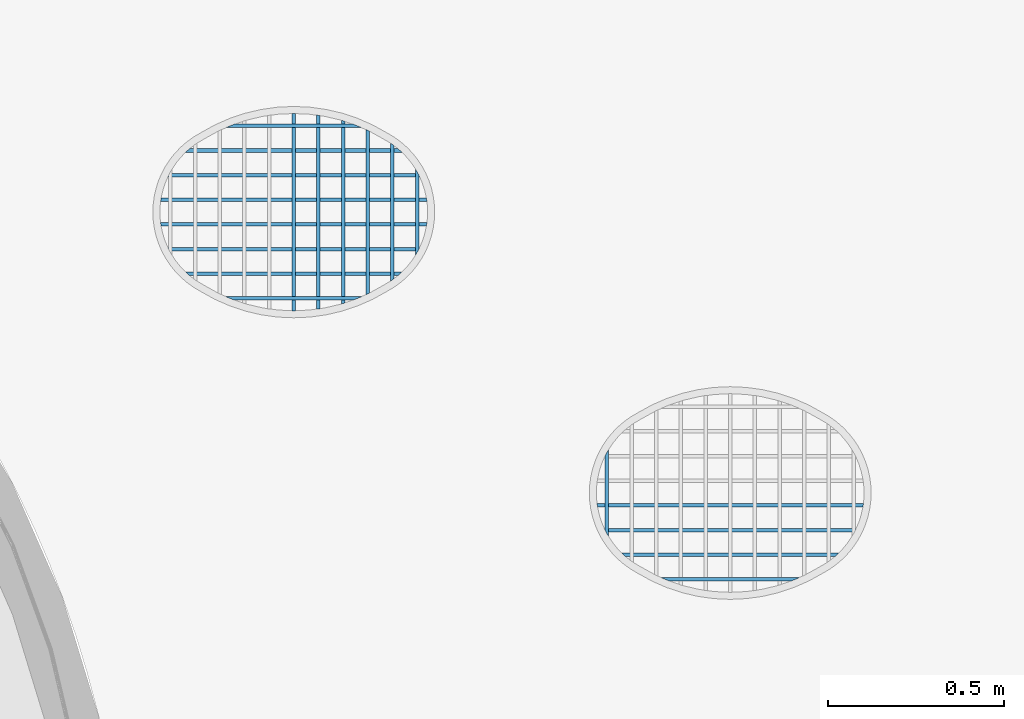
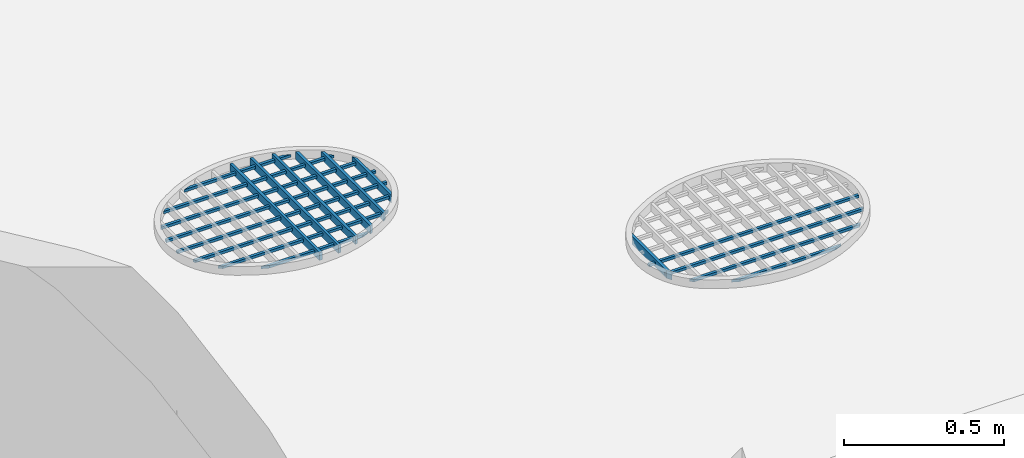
# One storey, part 43 of 133: 19 members, 2 elements without a shape of their own.
"""IFC2X3 building model written with IfcOpenShell, lengths in centimetres."""

from ifc_helpers import new_model, entity, si_unit, converted_unit, direction, frame, origin, origin_with_axes, place, context, subcontext, project, spatial, faceted_brep, material, type_object, element, aggregate, save


model = new_model("IFC2X3")

# Units and contexts
model_context = context("Model", 3, precision=0.0001, world=origin(), true_north=direction((0.225632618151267, 0.974212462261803, 0.0)))
body_context = subcontext(model_context, "Body", "Model", "MODEL_VIEW")
ifc_project = project(units=[si_unit("LENGTHUNIT", "METRE", prefix="CENTI"), si_unit("AREAUNIT", "SQUARE_METRE", prefix="CENTI"), si_unit("VOLUMEUNIT", "CUBIC_METRE", prefix="CENTI"), converted_unit("PLANEANGLEUNIT", "DEGREE", entity("IfcRatioMeasure", 0.0174532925), si_unit("PLANEANGLEUNIT", "RADIAN"), dimensions=[0, 0, 0, 0, 0, 0, 0])], contexts=[model_context])

# Site, building, storey
site_placement = place(None, origin_with_axes())
site = spatial("IfcSite", under=ifc_project, at=site_placement, Name="Default Site", CompositionType="ELEMENT")
building_placement = place(site_placement, origin_with_axes())
building = spatial("IfcBuilding", under=site, at=building_placement, Name="Default Building", CompositionType="ELEMENT")
storey_placement = place(building_placement, frame((0.0, 0.0, -291.400371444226), z_axis=(0.0, 0.0, 1.0), x_axis=(1.0, 0.0, 0.0)))
storey = spatial("IfcBuildingStorey", under=building, at=storey_placement, Name="Rez-de-Jardin", CompositionType="ELEMENT", Elevation=-291.400371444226)

# Assembly, members
building_element_proxy_type = type_object("IfcBuildingElementProxyType", Name="Type Object", PredefinedType="NOTDEFINED")
assembly_1_placement = place(storey_placement, frame((1793.16993622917, -1212.9155813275, 107.795800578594), z_axis=(0.0, -1.0, -9.43689570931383e-16), x_axis=(1.0, 0.0, 0.0)))
assembly_1 = element("IfcElementAssembly", 1, at=assembly_1_placement, inside=storey, type_object=building_element_proxy_type, Name="Panneau 294968", ObjectType="Precast panel", PredefinedType="USERDEFINED")
ifc_material = material(Name="Acier")
member_1_placement = place(assembly_1_placement, frame((59.7005188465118, 0.499999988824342, 54.1905760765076), z_axis=(0.383762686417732, -5.61192313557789e-22, 0.923431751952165), x_axis=(0.923431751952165, -3.62152844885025e-16, -0.383762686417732)))
member_1 = element("IfcMember", 2, at=member_1_placement, material=ifc_material, Name="4294966963", context=body_context, shape_type="Brep", body=[
    faceted_brep([(0.0, -3.17454396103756e-14, 2.22044604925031e-14), (-2.6057900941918, -3.26995375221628e-14, -4.03793421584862e-06), (-2.6057900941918, -0.999999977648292, -4.03793421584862e-06), (0.0, -0.999999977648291, 2.22044604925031e-14), (-36.3841667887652, -0.999999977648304, -15.1206470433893), (-34.5459040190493, -0.999999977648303, -13.2737781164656), (-34.5459040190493, -4.42354474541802e-14, -13.2737781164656), (-36.3841667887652, -4.49293380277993e-14, -15.1206470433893), (-2.60579009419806, -0.999999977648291, 2.22044604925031e-14), (-34.5459072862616, -0.999999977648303, -13.273774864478), (-2.60579009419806, -3.26995375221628e-14, 2.23646503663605e-14), (-34.5459072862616, -4.42354486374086e-14, -13.273774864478), (-2.60579009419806, -3.26995375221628e-14, 2.22044604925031e-14), (3.76769913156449e-33, -3.17558432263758e-14, 2.22044604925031e-14), (-36.3841667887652, -4.49324812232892e-14, -15.1206470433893), (-34.5459072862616, -4.42667492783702e-14, -13.273774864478), (5.33354253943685e-17, -0.999999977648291, 2.20761217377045e-14)], [[[0, 1, 2, 3]], [[4, 5, 6, 7]], [[3, 8, 9, 4]], [[8, 10, 11, 9]], [[12, 13, 14, 15]], [[0, 16, 4, 7]]]),
])
member_2_placement = place(assembly_1_placement, frame((70.8504140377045, 0.499999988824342, 47.1905797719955), z_axis=(0.675979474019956, 3.21339215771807e-22, 0.736920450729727), x_axis=(0.736920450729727, -6.37914779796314e-16, -0.675979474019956)))
member_2 = element("IfcMember", 3, at=member_2_placement, material=ifc_material, Name="4294966962", context=body_context, shape_type="Brep", body=[
    faceted_brep([(-1.11022302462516e-14, 1.29236898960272e-14, -1.33226762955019e-13), (-1.47933344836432, 1.20563281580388e-14, 7.45190079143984e-07), (-1.47933344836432, -0.999999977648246, 7.45190079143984e-07), (-1.11022302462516e-14, -0.999999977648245, -1.33226762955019e-13), (-45.4686000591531, -0.999999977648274, -41.7084914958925), (-45.3412250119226, -0.999999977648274, -40.2346519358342), (-45.3412250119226, -1.59594564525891e-14, -40.2346519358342), (-45.4686000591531, -1.60461921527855e-14, -41.7084914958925), (-1.47933344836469, -0.999999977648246, -1.33226762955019e-13), (-45.3412242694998, -0.999999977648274, -40.2346519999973), (-1.47933344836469, 1.20563281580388e-14, -1.32971092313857e-13), (-45.3412242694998, -1.59594559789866e-14, -40.2346519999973), (-1.47933344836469, 1.20563281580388e-14, -1.33226762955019e-13), (-1.11022302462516e-14, 1.30000168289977e-14, -1.33226762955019e-13), (-45.4686000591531, -1.60050617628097e-14, -41.7084914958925), (-45.3412242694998, -1.5923807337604e-14, -40.2346519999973), (-1.08107360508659e-14, -0.999999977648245, -1.33544535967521e-13)], [[[0, 1, 2, 3]], [[4, 5, 6, 7]], [[3, 8, 9, 4]], [[8, 10, 11, 9]], [[12, 13, 14, 15]], [[0, 16, 4, 7]]]),
])
member_3_placement = place(assembly_1_placement, frame((75.7990658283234, 0.499999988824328, 40.190577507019), z_axis=(0.896938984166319, 2.15687656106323e-21, 0.442154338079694), x_axis=(0.442154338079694, -8.46431965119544e-16, -0.896938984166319)))
member_3 = element("IfcMember", 4, at=member_3_placement, material=ifc_material, Name="4294966961", context=body_context, shape_type="Brep", body=[
    faceted_brep([(3.16066617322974e-13, 2.00360561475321e-14, -1.99840144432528e-13), (-1.11490529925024, 1.90819582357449e-14, 2.84099967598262e-06), (-1.11490529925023, -0.999999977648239, 2.84099967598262e-06), (3.1676050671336e-13, -0.999999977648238, -1.99840146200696e-13), (-31.657423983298, -0.999999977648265, -64.2191544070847), (-32.3364014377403, -0.999999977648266, -63.3348471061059), (-32.3364014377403, -7.28583803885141e-15, -63.3348471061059), (-31.657423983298, -6.76542155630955e-15, -64.2191544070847), (3.16760506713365e-13, -0.999999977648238, -1.99840144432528e-13), (-1.11490529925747, -0.999999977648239, -1.99840144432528e-13), (-32.3364020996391, -0.999999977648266, -63.3348476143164), (-1.11490529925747, 1.90819582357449e-14, -2.0007024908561e-13), (-32.3364020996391, -7.28583859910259e-15, -63.3348476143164), (-1.11490529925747, 1.90819582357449e-14, -1.99840144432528e-13), (3.16066617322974e-13, 2.00256497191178e-14, -1.99840144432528e-13), (-31.657423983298, -6.77006736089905e-15, -64.2191544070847), (-32.3364020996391, -7.34477804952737e-15, -63.3348476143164), (3.16883227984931e-13, -0.999999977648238, -1.99900641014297e-13)], [[[0, 1, 2, 3]], [[4, 5, 6, 7]], [[8, 9, 10, 4]], [[9, 11, 12, 10]], [[13, 14, 15, 16]], [[0, 17, 4, 7]]]),
])
member_4_placement = place(assembly_1_placement, frame((77.815169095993, 0.499999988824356, 33.1905782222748), z_axis=(0.989079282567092, 3.98866626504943e-22, 0.147384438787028), x_axis=(0.147384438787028, -9.33383803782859e-16, -0.989079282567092)))
member_4 = element("IfcMember", 5, at=member_4_placement, material=ifc_material, Name="4294966960", context=body_context, shape_type="Brep", body=[
    faceted_brep([(9.99200722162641e-14, 2.25514051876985e-15, -2.55351295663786e-13), (-1.0110403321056, 1.30104260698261e-15, 4.32051645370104e-07), (-1.0110403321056, -0.999999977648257, 4.32051645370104e-07), (9.99200722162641e-14, -0.999999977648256, -2.55351295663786e-13), (-11.146734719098, -0.999999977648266, -74.8043990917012), (-12.1138511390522, -0.999999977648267, -74.5096309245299), (-12.1138511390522, -9.02056209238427e-15, -74.5096309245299), (-11.146734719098, -8.15320033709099e-15, -74.8043990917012), (-1.01104033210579, -0.999999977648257, -2.55351295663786e-13), (-12.1138511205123, -0.999999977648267, -74.5096308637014), (-1.01104033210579, 1.3010426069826e-15, -2.55223460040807e-13), (-12.1138511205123, -9.0205620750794e-15, -74.5096308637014), (-1.01104033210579, 1.30104260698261e-15, -2.55351295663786e-13), (9.99200722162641e-14, 2.24473127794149e-15, -2.55351295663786e-13), (-11.146734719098, -8.15942053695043e-15, -74.8043990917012), (-12.1138511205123, -9.06211143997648e-15, -74.5096308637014), (1.00833180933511e-13, -0.999999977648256, -2.55487359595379e-13)], [[[0, 1, 2, 3]], [[4, 5, 6, 7]], [[3, 8, 9, 4]], [[8, 10, 11, 9]], [[12, 13, 14, 15]], [[0, 16, 4, 7]]]),
])
member_5_placement = place(assembly_1_placement, frame((5.49999997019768, 1.49999996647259, 42.6420271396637), z_axis=(-0.873670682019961, 2.55503137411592e-22, 0.486517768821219), x_axis=(0.486517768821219, 8.24473911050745e-16, 0.873670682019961)))
member_5 = element("IfcMember", 6, at=member_5_placement, material=ifc_material, Name="4294966955", context=body_context, shape_type="Brep", body=[
    faceted_brep([(9.99200722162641e-14, 1.17961196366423e-14, -1.49880108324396e-13), (-2.05542295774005, 1.35308431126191e-14, -6.36972414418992e-07), (-2.05542295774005, -2.99999993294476, -6.36972414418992e-07), (9.99200722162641e-14, -2.99999993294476, -1.49880108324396e-13), (-21.756931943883, -2.99999993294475, -12.1157024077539), (-20.6745430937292, -2.99999993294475, -10.3683606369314), (-20.6745430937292, 2.87964097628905e-14, -10.3683606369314), (-21.756931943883, 2.98372437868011e-14, -12.1157024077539), (-2.05542295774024, -2.99999993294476, -1.47104550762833e-13), (-20.6745430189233, -2.99999993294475, -10.3683606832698), (-2.05542295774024, 1.35308431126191e-14, -1.48165454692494e-13), (-20.6745430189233, 2.8796409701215e-14, -10.3683606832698), (-2.05542295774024, 1.35308431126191e-14, -1.47104550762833e-13), (9.99200722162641e-14, 1.18362005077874e-14, -1.49880108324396e-13), (-21.756931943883, 2.97742263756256e-14, -12.1157024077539), (-20.6745430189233, 2.88818244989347e-14, -10.3683606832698), (9.93346147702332e-14, -2.99999993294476, -1.48828765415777e-13)], [[[0, 1, 2, 3]], [[4, 5, 6, 7]], [[3, 8, 9, 4]], [[8, 10, 11, 9]], [[12, 13, 14, 15]], [[0, 16, 4, 7]]]),
])
aggregate(assembly_1, [member_1, member_2, member_3, member_4, member_5])

assembly_2_placement = place(storey_placement, frame((1669.25525147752, -1133.36164127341, 107.795800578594), z_axis=(0.0, -1.0, -9.43689570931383e-16), x_axis=(1.0, 0.0, 0.0)))
assembly_2 = element("IfcElementAssembly", 7, at=assembly_2_placement, inside=storey, type_object=building_element_proxy_type, Name="Panneau 294969", ObjectType="Precast panel", PredefinedType="USERDEFINED")
member_6_placement = place(assembly_2_placement, frame((59.3165040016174, 0.499999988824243, 54.0000021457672), z_axis=(0.373299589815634, 5.02653422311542e-24, 0.927710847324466), x_axis=(0.927710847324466, -3.52278929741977e-16, -0.373299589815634)))
member_6 = element("IfcMember", 8, at=member_6_placement, material=ifc_material, Name="4294966943", context=body_context, shape_type="Brep", body=[
    faceted_brep([(1.4432899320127e-13, -9.97465998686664e-15, -6.99440505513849e-13), (-2.67881099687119, -1.09287578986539e-14, 3.82222368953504e-08), (-2.67881099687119, -0.999999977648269, 3.82222368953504e-08), (1.4432899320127e-13, -0.999999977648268, -6.99440505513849e-13), (-35.8402608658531, -0.999999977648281, -14.4216861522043), (-33.9080473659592, -0.99999997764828, -12.5662652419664), (-33.9080473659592, -2.19442521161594e-14, -12.5662652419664), (-35.8402608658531, -2.26381413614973e-14, -14.4216861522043), (-2.67881099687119, -0.999999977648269, -6.88338275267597e-13), (-33.9080469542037, -0.99999997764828, -12.5662656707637), (-2.67881099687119, -1.09287578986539e-14, -6.8817734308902e-13), (-33.9080469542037, -2.19442519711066e-14, -12.5662656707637), (-2.67881099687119, -1.09287578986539e-14, -6.88338275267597e-13), (1.4432899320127e-13, -9.98506922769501e-15, -6.99440505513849e-13), (-35.8402608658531, -2.26108378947e-14, -14.4216861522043), (-33.9080469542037, -2.19301596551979e-14, -12.5662656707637), (1.44378084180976e-13, -0.999999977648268, -6.99562504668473e-13)], [[[0, 1, 2, 3]], [[4, 5, 6, 7]], [[3, 8, 9, 4]], [[8, 10, 11, 9]], [[12, 13, 14, 15]], [[0, 16, 4, 7]]]),
])
member_7_placement = place(assembly_2_placement, frame((70.7254946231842, 0.499999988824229, 46.9999998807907), z_axis=(0.666088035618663, -4.8381274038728e-22, 0.745873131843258), x_axis=(0.745873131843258, -6.28580332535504e-16, -0.666088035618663)))
member_7 = element("IfcMember", 9, at=member_7_placement, material=ifc_material, Name="4294966942", context=body_context, shape_type="Brep", body=[
    faceted_brep([(1.27675647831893e-13, 1.33573707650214e-14, -1.77635683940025e-13), (-1.50130161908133, 1.2490009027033e-14, -1.1555387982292e-06), (-1.50130161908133, -0.999999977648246, -1.1555387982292e-06), (1.27675647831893e-13, -0.999999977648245, -1.77635683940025e-13), (-45.8346425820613, -0.999999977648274, -40.9317694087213), (-45.665514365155, -0.999999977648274, -39.4400224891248), (-45.665514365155, -1.53523032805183e-14, -39.4400224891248), (-45.8346425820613, -1.54390389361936e-14, -40.9317694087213), (-1.50130161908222, -0.999999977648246, -1.77635683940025e-13), (-45.6655135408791, -0.999999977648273, -39.4400225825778), (-1.50130161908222, 1.2490009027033e-14, -1.77376907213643e-13), (-45.6655135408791, -1.53523027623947e-14, -39.4400225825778), (-45.6655135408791, -0.999999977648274, -39.4400225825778), (-1.50130161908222, 1.2490009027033e-14, -1.77635683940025e-13), (1.27675647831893e-13, 1.34336976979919e-14, -1.77635683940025e-13), (-45.8346425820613, -1.53770769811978e-14, -40.9317694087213), (-45.6655135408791, -1.52707650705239e-14, -39.4400225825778), (1.27954531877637e-13, -0.999999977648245, -1.77947973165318e-13)], [[[0, 1, 2, 3]], [[4, 5, 6, 7]], [[3, 8, 9, 4]], [[8, 10, 11, 12]], [[13, 14, 15, 16]], [[0, 17, 4, 7]]]),
])
member_8_placement = place(assembly_2_placement, frame((75.769579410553, 0.499999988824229, 40.0000005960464), z_axis=(0.894271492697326, 6.38341257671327e-22, 0.447524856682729), x_axis=(0.447524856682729, -8.43914681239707e-16, -0.894271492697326)))
member_8 = element("IfcMember", 10, at=member_8_placement, material=ifc_material, Name="4294966941", context=body_context, shape_type="Brep", body=[
    faceted_brep([(1.16226472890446e-13, -1.47451495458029e-15, 6.66133814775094e-14), (-1.1182275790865, -2.42861286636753e-15, 8.4583296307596e-07), (-1.1182275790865, -0.999999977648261, 8.4583296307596e-07), (1.16920362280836e-13, -0.99999997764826, 6.6613380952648e-14), (-32.0155512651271, -0.999999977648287, -63.9754292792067), (-32.6858654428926, -0.999999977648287, -63.0803811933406), (-32.6858654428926, -2.90566183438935e-14, -63.0803811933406), (-32.0155512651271, -2.85362011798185e-14, -63.9754292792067), (1.16920362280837e-13, -0.99999997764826, 6.66133814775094e-14), (-1.11822757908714, -0.999999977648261, 6.66133814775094e-14), (-32.685865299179, -0.999999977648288, -63.0803810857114), (-1.11822757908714, -2.42861286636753e-15, 6.66133814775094e-14), (-32.685865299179, -2.90566182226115e-14, -63.0803810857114), (1.16226472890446e-13, -1.48492419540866e-15, 6.66133814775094e-14), (-32.0155512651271, -2.8503277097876e-14, -63.9754292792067), (-32.685865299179, -2.90689655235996e-14, -63.0803810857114), (1.17040340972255e-13, -0.99999997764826, 6.65533399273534e-14)], [[[0, 1, 2, 3]], [[4, 5, 6, 7]], [[8, 9, 10, 4]], [[9, 11, 12, 10]], [[11, 13, 14, 15]], [[0, 16, 4, 7]]]),
])
member_9_placement = place(assembly_2_placement, frame((77.8129041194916, 0.499999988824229, 33.0000013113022), z_axis=(0.988811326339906, -2.97719498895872e-21, 0.149171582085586), x_axis=(0.149171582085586, -9.33130936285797e-16, -0.988811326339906)))
member_9 = element("IfcMember", 11, at=member_9_placement, material=ifc_material, Name="4294966940", context=body_context, shape_type="Brep", body=[
    faceted_brep([(3.02535774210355e-13, 2.48065457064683e-14, -2.22044604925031e-14), (-1.01131431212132, 2.38524477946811e-14, -3.22664248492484e-06), (-1.01131431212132, -0.999999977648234, -3.22664248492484e-06), (3.02535774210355e-13, -0.999999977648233, -2.22044604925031e-14), (-11.2812218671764, -0.999999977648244, -74.7796584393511), (-12.2475278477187, -0.999999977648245, -74.4813123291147), (-12.2475278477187, 1.33573707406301e-14, -74.4813123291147), (-11.2812218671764, 1.42247325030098e-14, -74.7796584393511), (-1.01131431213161, -0.999999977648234, -2.22044604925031e-14), (-12.2475278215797, -0.999999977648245, -74.4813122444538), (-1.01131431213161, 2.38524477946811e-14, -2.20750747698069e-14), (-12.2475278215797, 1.33573707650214e-14, -74.4813122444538), (-1.01131431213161, 2.38524477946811e-14, -2.22044604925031e-14), (3.02535774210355e-13, 2.479613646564e-14, -2.22044604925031e-14), (-11.2812218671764, 1.42690567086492e-14, -74.7796584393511), (-12.2475278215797, 1.33673676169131e-14, -74.4813122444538), (3.03448140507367e-13, -0.999999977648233, -2.23420996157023e-14)], [[[0, 1, 2, 3]], [[4, 5, 6, 7]], [[3, 8, 9, 4]], [[8, 10, 11, 9]], [[12, 13, 14, 15]], [[0, 16, 4, 7]]]),
])
member_10_placement = place(assembly_2_placement, frame((77.6620447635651, 0.499999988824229, 25.9999990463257), z_axis=(0.988811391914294, 3.38739116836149e-21, -0.149171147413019), x_axis=(-0.149171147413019, -9.33130998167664e-16, -0.988811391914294)))
member_10 = element("IfcMember", 12, at=member_10_placement, material=ifc_material, Name="4294966939", context=body_context, shape_type="Brep", body=[
    faceted_brep([(1.66533453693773e-13, 3.17454396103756e-14, 1.11022302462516e-13), (-1.01131725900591, 3.07913416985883e-14, 3.67121793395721e-06), (-1.01131725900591, -0.999999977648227, 3.67121793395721e-06), (1.66533453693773e-13, -0.999999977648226, 1.11022302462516e-13), (11.2361807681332, -0.999999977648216, -74.4813171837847), (10.2698718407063, -0.999999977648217, -74.7796637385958), (10.2698718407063, 4.12864188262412e-14, -74.7796637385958), (11.2361807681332, 4.22405166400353e-14, -74.4813171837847), (-1.01131725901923, -0.999999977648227, 9.99200722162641e-14), (10.2698717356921, -0.999999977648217, -74.7796633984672), (-1.01131725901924, 3.07913416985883e-14, 9.97906868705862e-14), (10.2698717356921, 4.1286418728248e-14, -74.7796633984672), (-1.01131725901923, 3.07913416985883e-14, 9.99200722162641e-14), (1.66533453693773e-13, 3.17350331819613e-14, 1.11022302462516e-13), (11.2361807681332, 4.22201140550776e-14, -74.4813171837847), (10.2698717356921, 4.13184221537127e-14, -74.7796633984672), (1.67445820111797e-13, -0.999999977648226, 1.11159941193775e-13)], [[[0, 1, 2, 3]], [[4, 5, 6, 7]], [[3, 8, 9, 4]], [[8, 10, 11, 9]], [[12, 13, 14, 15]], [[0, 16, 4, 7]]]),
])
member_11_placement = place(assembly_2_placement, frame((75.2691447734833, 0.499999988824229, 18.9999997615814), z_axis=(0.894271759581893, -1.3506659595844e-22, -0.447524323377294), x_axis=(-0.447524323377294, -8.4391493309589e-16, -0.894271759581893)))
member_11 = element("IfcMember", 13, at=member_11_placement, material=ifc_material, Name="4294966938", context=body_context, shape_type="Brep", body=[
    faceted_brep([(2.66453525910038e-13, 2.38524477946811e-14, -8.88178419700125e-14), (-1.11822891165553, 2.28983498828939e-14, -1.78969990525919e-07), (-1.11822891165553, -0.999999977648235, -1.78969990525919e-07), (2.66453525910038e-13, -0.999999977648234, -8.88178419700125e-14), (31.5676001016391, -0.999999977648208, -63.0803999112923), (30.8972845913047, -0.999999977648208, -63.9754486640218), (30.8972845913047, 4.9960036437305e-14, -63.9754486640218), (31.5676001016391, 5.04804531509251e-14, -63.0803999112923), (-1.11822891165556, -0.999999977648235, -8.88178419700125e-14), (30.8972842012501, -0.999999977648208, -63.975448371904), (-1.11822891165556, 2.28983498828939e-14, -8.91283743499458e-14), (30.8972842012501, 4.9960036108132e-14, -63.975448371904), (-1.11822891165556, 2.28983498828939e-14, -8.88178419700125e-14), (2.66453525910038e-13, 2.38420399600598e-14, -8.88178419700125e-14), (31.5676001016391, 5.04824005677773e-14, -63.0803999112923), (30.8972842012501, 4.99167108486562e-14, -63.975448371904), (2.67128423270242e-13, -0.999999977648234, -8.84801001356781e-14)], [[[0, 1, 2, 3]], [[4, 5, 6, 7]], [[3, 8, 9, 4]], [[8, 10, 11, 9]], [[12, 13, 14, 15]], [[0, 16, 4, 7]]]),
])
member_12_placement = place(assembly_2_placement, frame((69.6057140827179, 0.499999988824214, 11.9999997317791), z_axis=(0.666088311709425, 7.16486992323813e-22, -0.745872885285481), x_axis=(-0.745872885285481, -6.28580593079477e-16, -0.666088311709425)))
member_12 = element("IfcMember", 14, at=member_12_placement, material=ifc_material, Name="4294966937", context=body_context, shape_type="Brep", body=[
    faceted_brep([(2.88657986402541e-13, 7.33788030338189e-14, 2.1094237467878e-13), (-1.50130211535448, 7.24247051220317e-14, 1.71125800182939e-06), (-1.50130211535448, -0.999999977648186, 1.71125800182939e-06), (2.88657986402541e-13, -0.999999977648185, 2.1094237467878e-13), (44.1641973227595, -0.999999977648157, -39.4400389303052), (44.3333250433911, -0.999999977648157, -40.9317864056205), (44.3333250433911, 1.01221114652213e-13, -40.9317864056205), (44.1641973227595, 1.01134378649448e-13, -39.4400389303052), (-1.50130211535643, -0.999999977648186, 2.1094237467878e-13), (44.3333253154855, -0.999999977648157, -40.9317863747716), (-1.50130211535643, 7.24247051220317e-14, 2.1068359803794e-13), (44.3333253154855, 1.01221114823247e-13, -40.9317863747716), (-1.50130211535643, 7.24247051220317e-14, 2.1094237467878e-13), (2.88657986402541e-13, 7.33683944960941e-14, 2.1094237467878e-13), (44.1641973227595, 1.01129180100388e-13, -39.4400389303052), (44.3333253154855, 1.0123549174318e-13, -40.9317863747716), (2.88936870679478e-13, -0.999999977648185, 2.11254663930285e-13)], [[[0, 1, 2, 3]], [[4, 5, 6, 7]], [[3, 8, 9, 4]], [[8, 10, 11, 9]], [[12, 13, 14, 15]], [[0, 16, 4, 7]]]),
])
member_13_placement = place(assembly_2_placement, frame((56.8313419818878, 0.499999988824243, 5.00000007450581), z_axis=(0.373299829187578, 8.58700502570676e-23, -0.927710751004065), x_axis=(-0.927710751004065, -3.52279155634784e-16, -0.373299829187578)))
member_13 = element("IfcMember", 15, at=member_13_placement, material=ifc_material, Name="4294966936", context=body_context, shape_type="Brep", body=[
    faceted_brep([(-1.11022302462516e-14, 3.03576608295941e-15, 9.43689570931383e-14), (-2.67881127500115, 2.08166817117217e-15, 6.52975597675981e-07), (-2.67881127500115, -0.999999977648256, 6.52975597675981e-07), (-1.11022302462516e-14, -0.999999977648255, 9.43689570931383e-14), (31.2292327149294, -0.999999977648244, -12.5662737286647), (33.1614459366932, -0.999999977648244, -14.4216953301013), (33.1614459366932, 1.47451495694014e-14, -14.4216953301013), (31.2292327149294, 1.40512601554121e-14, -12.5662737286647), (-2.67881127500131, -0.999999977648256, 9.71445146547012e-14), (33.1614458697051, -0.999999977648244, -14.4216953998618), (31.2292327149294, -0.999999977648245, -12.5662737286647), (-2.67881127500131, 2.08166817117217e-15, 9.69835824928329e-14), (33.1614458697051, 1.47451495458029e-14, -14.4216953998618), (-2.67881127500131, 2.08166817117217e-15, 9.71445146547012e-14), (-1.11022302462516e-14, 3.02535754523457e-15, 9.43689570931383e-14), (31.2292327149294, 1.40267663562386e-14, -12.5662737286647), (33.1614458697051, 1.47074449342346e-14, -14.4216953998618), (-1.1053139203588e-14, -0.999999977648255, 9.44909563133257e-14)], [[[0, 1, 2, 3]], [[4, 5, 6, 7]], [[3, 8, 9, 10]], [[8, 11, 12, 9]], [[13, 14, 15, 16]], [[0, 17, 4, 7]]]),
])
member_14_placement = place(assembly_2_placement, frame((40.5000001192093, 1.4999999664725, 57.9999983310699), z_axis=(0.0, 0.0, 1.0), x_axis=(1.0, 0.0, 0.0)))
member_14 = element("IfcMember", 16, at=member_14_placement, material=ifc_material, Name="4294966930", context=body_context, shape_type="Brep", body=[
    faceted_brep([(0.0, -2.22044604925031e-14, -1.77635683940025e-13), (-0.999999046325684, -2.22044604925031e-14, -1.88737903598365e-13), (-0.999999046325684, -2.9999999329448, -1.88737903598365e-13), (0.0, -2.9999999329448, -1.77635683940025e-13), (0.0, -2.9999999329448, -55.9999983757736), (-0.999999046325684, -2.9999999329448, -55.9999983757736), (-0.999999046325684, -2.22044604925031e-14, -55.9999983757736), (0.0, -2.22044604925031e-14, -55.9999983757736), (-0.999999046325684, -2.9999999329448, -1.77635683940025e-13), (-0.999999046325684, -2.22044604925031e-14, -1.77635683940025e-13), (-0.999999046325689, -2.22044604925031e-14, -55.9999983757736), (-0.999999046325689, -2.9999999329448, -55.9999983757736), (-5.55111490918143e-15, -2.9999999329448, -55.9999983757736), (-5.55111490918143e-15, -2.22044604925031e-14, -55.9999983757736)], [[[0, 1, 2, 3]], [[4, 5, 6, 7]], [[3, 8, 5, 4]], [[8, 9, 10, 11]], [[9, 0, 7, 6]], [[0, 3, 12, 13]]]),
])
member_15_placement = place(assembly_2_placement, frame((47.4999994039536, 1.4999999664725, 57.4182450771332), z_axis=(0.144579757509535, -2.00051453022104e-22, 0.989493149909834), x_axis=(0.989493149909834, -1.36438409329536e-16, -0.144579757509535)))
member_15 = element("IfcMember", 17, at=member_15_placement, material=ifc_material, Name="4294966929", context=body_context, shape_type="Brep", body=[
    faceted_brep([(-3.5527136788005e-13, -3.88578058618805e-14, -1.55431223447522e-13), (-1.01061745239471, -3.88578058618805e-14, -1.48180788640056e-06), (-1.01061745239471, -2.99999993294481, -1.48180788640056e-06), (-3.5527136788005e-13, -2.99999993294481, -1.55431223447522e-13), (7.92824669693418, -2.99999993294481, -54.2603330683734), (6.95987949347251, -2.99999993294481, -54.5494908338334), (6.95987949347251, -3.78169717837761e-14, -54.5494908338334), (7.92824669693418, -3.76434994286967e-14, -54.2603330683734), (-1.01061745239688, -2.99999993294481, -1.66533453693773e-13), (6.9598795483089, -2.99999993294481, -54.5494910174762), (-1.01061745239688, -3.88578058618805e-14, -1.66583614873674e-13), (6.95987954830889, -3.78169717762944e-14, -54.5494910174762), (-1.01061745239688, -3.88578058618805e-14, -1.66533453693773e-13), (-3.5527136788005e-13, -3.87199188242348e-14, -1.55431223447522e-13), (7.92824669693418, -3.76382123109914e-14, -54.2603330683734), (6.9598795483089, -3.77703348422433e-14, -54.5494910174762), (-3.54870608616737e-13, -2.99999993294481, -1.5537266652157e-13)], [[[0, 1, 2, 3]], [[4, 5, 6, 7]], [[3, 8, 9, 4]], [[8, 10, 11, 9]], [[12, 13, 14, 15]], [[0, 16, 4, 7]]]),
])
member_16_placement = place(assembly_2_placement, frame((54.5000016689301, 1.4999999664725, 55.7806968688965), z_axis=(0.289155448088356, 3.30920702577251e-22, 0.957282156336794), x_axis=(0.957282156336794, -2.72872980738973e-16, -0.289155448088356)))
member_16 = element("IfcMember", 18, at=member_16_placement, material=ifc_material, Name="4294966928", context=body_context, shape_type="Brep", body=[
    faceted_brep([(2.38697950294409e-13, 3.20923843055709e-14, 7.7715611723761e-14), (-1.04462309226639, 3.17454396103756e-14, 1.26684374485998e-06), (-1.04462309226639, -2.99999993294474, 1.26684374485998e-06), (2.38697950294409e-13, -2.99999993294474, 7.7715611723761e-14), (14.9092579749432, -2.99999993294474, -49.3588023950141), (14.0393189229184, -2.99999993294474, -49.9371140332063), (14.0393189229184, 3.59087759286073e-14, -49.9371140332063), (14.9092579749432, 3.60822483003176e-14, -49.3588023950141), (-1.04462309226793, -2.99999993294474, 8.88178419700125e-14), (14.0393190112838, -2.99999993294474, -49.9371141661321), (-1.04462309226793, 3.17454396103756e-14, 8.85670395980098e-14), (14.0393190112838, 3.59087759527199e-14, -49.9371141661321), (-1.04462309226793, 3.17454396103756e-14, 8.88178419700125e-14), (2.38697950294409e-13, 3.20304890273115e-14, 7.7715611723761e-14), (14.9092579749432, 3.60988390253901e-14, -49.3588023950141), (14.0393190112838, 3.58614563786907e-14, -49.9371141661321), (2.39448123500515e-13, -2.99999993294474, 7.79422081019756e-14)], [[[0, 1, 2, 3]], [[4, 5, 6, 7]], [[3, 8, 9, 4]], [[8, 10, 11, 9]], [[12, 13, 14, 15]], [[0, 16, 4, 7]]]),
])
member_17_placement = place(assembly_2_placement, frame((61.5000009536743, 1.4999999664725, 52.9680252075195), z_axis=(0.433736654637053, -7.7108313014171e-22, 0.901039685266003), x_axis=(0.901039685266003, -4.09312757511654e-16, -0.433736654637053)))
member_17 = element("IfcMember", 19, at=member_17_placement, material=ifc_material, Name="4294966927", context=body_context, shape_type="Brep", body=[
    faceted_brep([(1.83186799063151e-13, 1.33573707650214e-14, -4.66293670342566e-13), (-1.10982797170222, 1.28369537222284e-14, -2.0907479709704e-06), (-1.10982797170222, -2.99999993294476, -2.0907479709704e-06), (1.83186799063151e-13, -2.99999993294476, -4.66293670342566e-13), (19.9241490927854, -2.99999993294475, -41.390204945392), (19.231898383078, -2.99999993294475, -42.2576753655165), (19.231898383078, 2.11636263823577e-14, -42.2576753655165), (19.9241490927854, 2.15105711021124e-14, -41.390204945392), (-1.10982797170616, -2.99999993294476, -4.66293670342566e-13), (19.2318984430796, -2.99999993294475, -42.2576754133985), (-1.10982797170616, 1.28369537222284e-14, -4.6674511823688e-13), (19.2318984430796, 2.1163626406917e-14, -42.2576754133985), (-1.10982797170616, 1.28369537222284e-14, -4.66293670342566e-13), (1.83186799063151e-13, 1.32912204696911e-14, -4.66293670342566e-13), (19.9241490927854, 2.14463969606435e-14, -41.390204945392), (19.2318984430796, 2.11630492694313e-14, -42.2576754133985), (1.84183729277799e-13, -2.99999993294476, -4.65813774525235e-13)], [[[0, 1, 2, 3]], [[4, 5, 6, 7]], [[3, 8, 9, 4]], [[8, 10, 11, 9]], [[12, 13, 14, 15]], [[0, 16, 4, 7]]]),
])
member_18_placement = place(assembly_2_placement, frame((68.5000002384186, 1.4999999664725, 48.8655418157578), z_axis=(0.573786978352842, -3.29006746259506e-22, 0.819004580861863), x_axis=(0.819004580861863, -5.41476787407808e-16, -0.573786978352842)))
member_18 = element("IfcMember", 20, at=member_18_placement, material=ifc_material, Name="4294966926", context=body_context, shape_type="Brep", body=[
    faceted_brep([(1.27675647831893e-13, 1.52655665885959e-14, -3.99680288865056e-13), (-1.2209932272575, 1.45716771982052e-14, -7.41888174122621e-07), (-1.2209932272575, -2.99999993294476, -7.41888174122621e-07), (1.27675647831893e-13, -2.99999993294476, -3.99680288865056e-13), (21.6496043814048, -2.99999993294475, -30.9019302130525), (21.2325893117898, -2.99999993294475, -32.0495028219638), (21.2325893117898, 2.67147411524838e-14, -32.0495028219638), (21.6496043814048, 2.68882138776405e-14, -30.9019302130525), (-1.22099322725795, -2.99999993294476, -4.10782519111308e-13), (21.2325900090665, -2.99999993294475, -32.0495030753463), (-1.22099322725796, 1.45716771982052e-14, -4.11578808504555e-13), (21.2325900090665, 2.67147415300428e-14, -32.0495030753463), (-1.22099322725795, 1.45716771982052e-14, -4.10782519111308e-13), (1.27675647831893e-13, 1.52328166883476e-14, -3.99680288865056e-13), (21.6496043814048, 2.69555647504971e-14, -30.9019302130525), (21.2325900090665, 2.67297607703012e-14, -32.0495030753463), (1.28765264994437e-13, -2.99999993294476, -3.98916913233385e-13)], [[[0, 1, 2, 3]], [[4, 5, 6, 7]], [[3, 8, 9, 4]], [[8, 10, 11, 9]], [[12, 13, 14, 15]], [[0, 16, 4, 7]]]),
])
member_19_placement = place(assembly_2_placement, frame((75.4999995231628, 1.49999996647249, 40.5880331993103), z_axis=(0.872136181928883, -4.01899425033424e-22, 0.489263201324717), x_axis=(0.489263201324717, -8.23025819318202e-16, -0.872136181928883)))
member_19 = element("IfcMember", 21, at=member_19_placement, material=ifc_material, Name="4294966925", context=body_context, shape_type="Brep", body=[
    faceted_brep([(2.54136989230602e-13, 2.34187669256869e-14, -7.7715611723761e-14), (-2.04388771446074, 2.18575157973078e-14, -9.98069977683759e-07), (-2.04388771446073, -2.99999993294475, -9.98069977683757e-07), (2.56565602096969e-13, -2.99999993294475, -7.77156105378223e-14), (18.4684142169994, -2.99999993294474, -10.3606703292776), (19.5337756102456, -2.99999993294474, -12.1049415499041), (19.5337756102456, 3.95516945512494e-14, -12.1049415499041), (18.4684142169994, 3.86843335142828e-14, -10.3606703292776), (2.5656560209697e-13, -2.99999993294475, -7.7715611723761e-14), (-2.04388771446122, -2.99999993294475, -8.88178419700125e-14), (19.533776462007, -2.99999993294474, -12.1049410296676), (-2.04388771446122, 2.18575157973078e-14, -8.86665504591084e-14), (19.533776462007, 3.95516952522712e-14, -12.1049410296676), (-2.04388771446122, 2.18575157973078e-14, -8.88178419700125e-14), (2.54136989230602e-13, 2.35396881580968e-14, -7.7715611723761e-14), (18.4684142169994, 3.87396657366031e-14, -10.3606703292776), (19.533776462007, 3.96164856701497e-14, -12.1049410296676), (2.5657528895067e-13, -2.99999993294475, -7.76983444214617e-14)], [[[0, 1, 2, 3]], [[4, 5, 6, 7]], [[8, 9, 10, 4]], [[9, 11, 12, 10]], [[13, 14, 15, 16]], [[0, 17, 4, 7]]]),
])
aggregate(assembly_2, [member_6, member_7, member_8, member_9, member_10, member_11, member_12, member_13, member_14, member_15, member_16, member_17, member_18, member_19])

save(model, "model.ifc")
